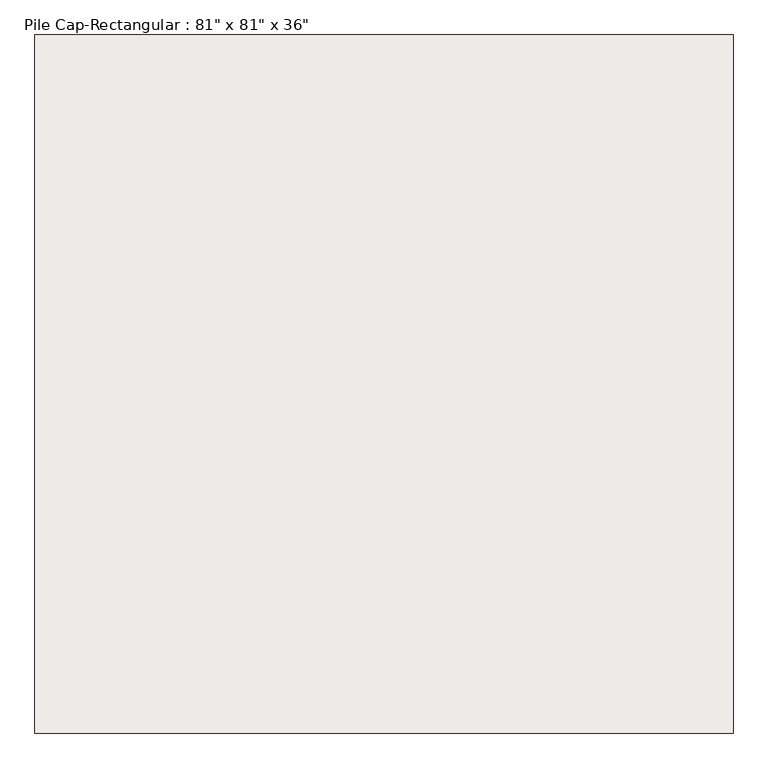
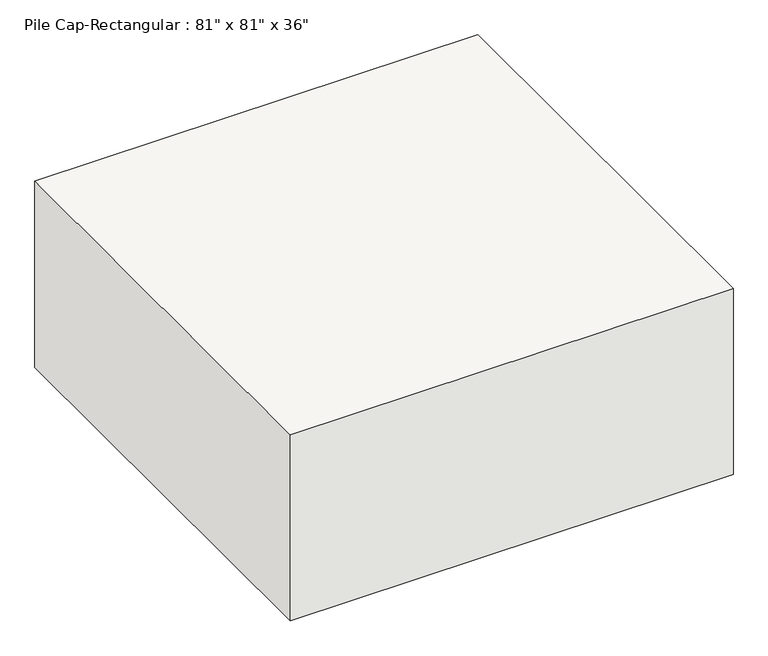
"""IFC4 building model written with IfcOpenShell, lengths in millimetres: slab geometry."""

from ifc_helpers import new_model, si_unit, frame, origin, place, context, project, spatial, polyline, outline, extrude, source, transform, mapped, element, save


def slab_95bb2fbc(model_context):
    return source(origin(), model_context, "Body", "SweptSolid", [
        extrude(outline(polyline([(1028.7, 1028.7), (1028.7, -1028.7), (-1028.7, -1028.7), (-1028.7, 1028.7), (1028.7, 1028.7)])), frame((0.0, 0.0, -914.4), z_axis=(0.0, 0.0, 1.0), x_axis=(1.0, 0.0, 0.0)), (0.0, 0.0, 1.0), 914.4),
    ])


if __name__ == "__main__":
    model = new_model("IFC4")
    model_context = context("Model", 3, world=origin())
    ifc_project = project(units=[si_unit("LENGTHUNIT", "METRE", prefix="MILLI")], contexts=[model_context])
    site = spatial("IfcSite", under=ifc_project)
    building = spatial("IfcBuilding", under=site)
    placement = place(None, origin())
    slab_shape = slab_95bb2fbc(model_context)
    element("IfcSlab", 1, ObjectType="Pile Cap-Rectangular : 81\" x 81\" x 36\"", at=placement, inside=building, context=model_context, shape_type="MappedRepresentation", body=[
        mapped(slab_shape, transform((0.0, 0.0, 0.0), x_axis=(1.0, 0.0, 0.0), y_axis=(0.0, 1.0, 0.0), z_axis=(0.0, 0.0, 1.0))),
    ])
    save(model, "model.ifc")
